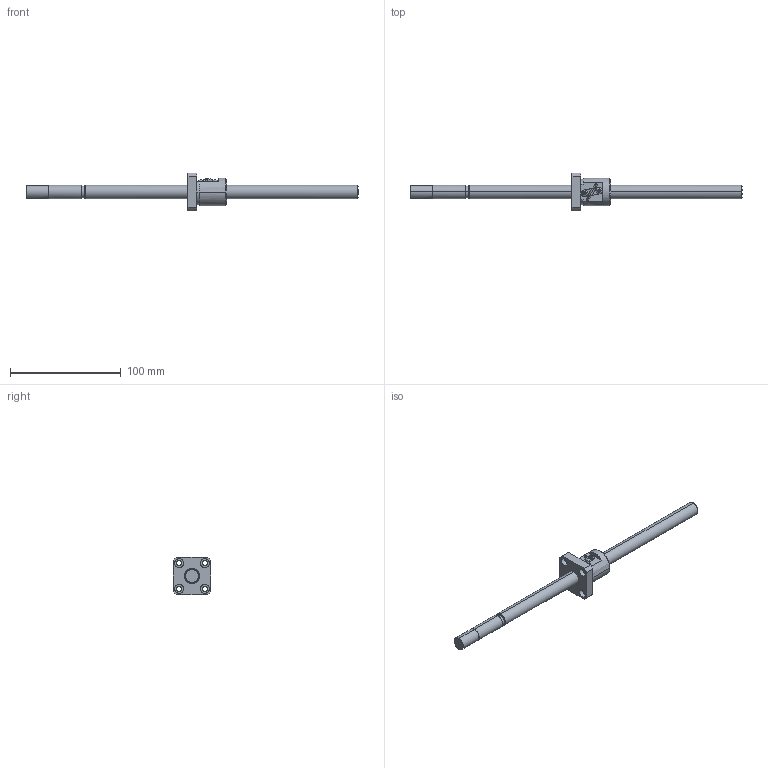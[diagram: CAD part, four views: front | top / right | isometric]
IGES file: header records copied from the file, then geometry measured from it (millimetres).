
Global section: file name: No Iges File Name specified; native system: AutoDesk Inventor R10; preprocessor: AutoDesk Inventor Iges Exporter R10; author: No Author specified; organization: No Organization specified; date: 20101224.135943; units: millimetre
Bounding box: 300 x 34 x 34 mm (x, y, z)
Surface area: 18917.6 mm2 (no closed solid volume)
Topology: 0 solids, 0 shells, 124 faces, 916 edges, 916 vertices
Faces by surface type: bspline 124
